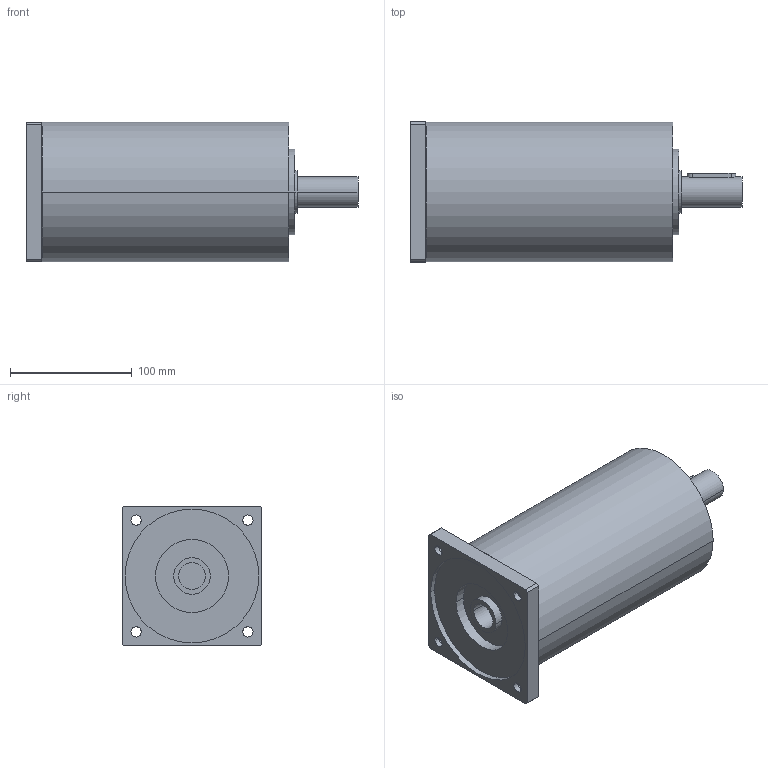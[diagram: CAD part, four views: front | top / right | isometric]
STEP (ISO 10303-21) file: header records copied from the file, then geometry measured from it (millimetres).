
FILE_DESCRIPTION(('CoCreate Modeling STEP Export'),'2;1');
FILE_NAME('GPR125_ig-48-64-80-100-140-196-245-343_25_B14_22_P07.stp','2014-08-26T14:22:07',(''),(''),'CoCreate Modeling STEP processor for AP214 (Solid Model)','CoCreate Modeling 16.00C 25-Feb-2009 (C) Parametric Technology GmbH','');
FILE_SCHEMA(('AUTOMOTIVE_DESIGN { 1 0 10303 214 1 1 1 1 }'));
Length unit declared in the file: millimetre
Products named in the file (2): GPR125_ig-48-64-80-100-140-196-245-343_25_B14_22_P07
Assembly tree (1 placements, depth 2):
  GPR125_ig-48-64-80-100-140-196-245-343_25_B14_22_P07
    GPR125_ig-48-64-80-100-140-196-245-343_25_B14_22_P07
Bounding box: 273 x 115 x 115 mm (x, y, z)
Volume: 2232849.4 mm3; surface area: 123211.9 mm2
Topology: 1 solids, 1 shells, 77 faces, 210 edges, 150 vertices
Faces by surface type: cylinder 48, plane 25, cone 4
Entity records: 2143 total; most frequent: ORIENTED_EDGE 416, CARTESIAN_POINT 397, DIRECTION 288, EDGE_CURVE 208, VERTEX_POINT 150, AXIS2_PLACEMENT_3D 109, EDGE_LOOP 102, FACE_OUTER_BOUND 77
